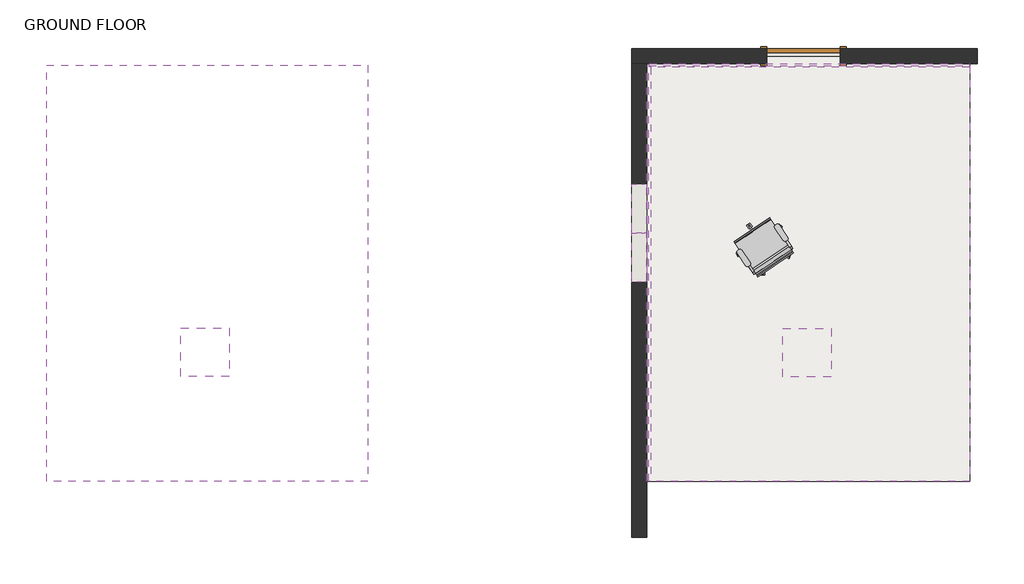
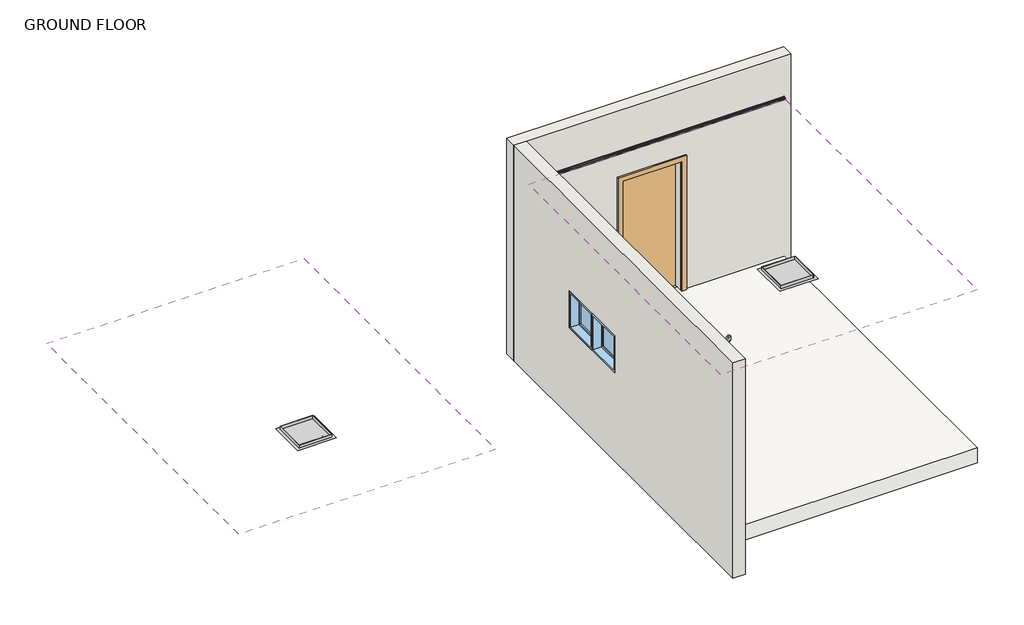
# One storey, incomplete: 4 proxies, 2 coverings, 2 walls, 2 windows, 1 door, 1 furniture element, 1 slab.
"""IFC4 building model written with IfcOpenShell, lengths in millimetres."""

from ifc_helpers import new_model, si_unit, point, frame, frame_2d, origin, place, context, project, spatial, polyline, circle_curve, trimmed, segment, composite_curve, outline, extrude, faceted_brep, transform, mapped, element, save
from components import m_single_flush_0915_x_2134mm_f5238887, chair_task_arms_chair_task_arms_3b363349, m_fixed_0610_x_0610mm_09852ef8

model = new_model("IFC4")

# Units and contexts
model_context = context("Model", 3, world=origin())
ifc_project = project(units=[si_unit("LENGTHUNIT", "METRE", prefix="MILLI")], contexts=[model_context])

# Site, building, storey
site = spatial("IfcSite", under=ifc_project)
building = spatial("IfcBuilding", under=site)
storey = spatial("IfcBuildingStorey", under=building, Name="GROUND FLOOR", Elevation=0.0)

# Proxies
placement = place(None, origin())
element("IfcBuildingElementProxy", 1, Name="Ceiling_Access_HatchPanel_Parametric : Bottom Hung", ObjectType="Ceiling_Access_HatchPanel_Parametric : Bottom Hung", at=placement, inside=storey, context=model_context, shape_type="SolidModel", body=[
    faceted_brep([(107182.6212716, 2875.9489557, 2650.0), (107182.6212716, 2365.2489557, 2650.0), (107693.3212716, 2365.2489557, 2650.0), (107693.3212716, 2875.9489557, 2650.0), (107188.9712716, 2869.5989557, 2650.0), (107686.9712716, 2869.5989557, 2650.0), (107686.9712716, 2371.5989557, 2650.0), (107188.9712716, 2371.5989557, 2650.0), (107182.6212716, 2875.9489557, 2600.0), (107693.3212716, 2875.9489557, 2600.0), (107693.3212716, 2365.2489557, 2600.0), (107182.6212716, 2365.2489557, 2600.0), (107188.9712716, 2869.5989557, 2600.0), (107188.9712716, 2371.5989557, 2600.0), (107686.9712716, 2371.5989557, 2600.0), (107686.9712716, 2869.5989557, 2600.0), (107182.6212716, 2875.9489557, 2611.0), (107182.6212716, 2365.2489557, 2611.0), (107693.3212716, 2365.2489557, 2611.0), (107693.3212716, 2875.9489557, 2611.0)], [[[0, 1, 2, 3], [4, 5, 6, 7]], [[8, 9, 10, 11], [12, 13, 14, 15]], [[5, 4, 12, 15]], [[6, 5, 15, 14]], [[7, 6, 14, 13]], [[4, 7, 13, 12]], [[1, 0, 16, 8, 11, 17]], [[2, 1, 17, 11, 10, 18]], [[3, 2, 18, 10, 9, 19]], [[0, 3, 19, 9, 8, 16]]]),
    extrude(outline(polyline([(107188.9712716, 2869.5989557), (107686.9712716, 2869.5989557), (107686.9712716, 2371.5989557), (107188.9712716, 2371.5989557), (107188.9712716, 2869.5989557)])), frame((0.0, 0.0, 2593.65), z_axis=(0.0, 0.0, 1.0), x_axis=(1.0, 0.0, 0.0)), (0.0, 0.0, 1.0), 6.35),
    faceted_brep([(107188.9712716, 2869.5989557, 2600.0), (107188.9712716, 2869.5989557, 2590.475), (107686.9712716, 2869.5989557, 2590.475), (107686.9712716, 2869.5989557, 2600.0), (107686.9712716, 2371.5989557, 2590.475), (107686.9712716, 2371.5989557, 2600.0), (107188.9712716, 2371.5989557, 2590.475), (107188.9712716, 2371.5989557, 2600.0), (107725.0712716, 2907.6989557, 2590.475), (107725.0712716, 2333.4989557, 2590.475), (107150.8712716, 2333.4989557, 2590.475), (107150.8712716, 2907.6989557, 2590.475), (107138.1712716, 2920.3989557, 2600.0), (107138.1712716, 2320.7989557, 2600.0), (107737.7712716, 2320.7989557, 2600.0), (107737.7712716, 2920.3989557, 2600.0)], [[[0, 1, 2, 3]], [[3, 2, 4, 5]], [[5, 4, 6, 7]], [[8, 9, 10, 11], [1, 6, 4, 2]], [[12, 13, 14, 15], [3, 5, 7, 0]], [[7, 6, 1, 0]], [[11, 12, 15, 8]], [[8, 15, 14, 9]], [[9, 14, 13, 10]], [[10, 13, 12, 11]]]),
    extrude(outline(composite_curve([segment(trimmed(circle_curve(frame_2d((107278.9712716, 2437.9489557)), 10.0), [point((107278.9712716, 2427.9489557))], [point((107278.9712716, 2447.9489557))], False, "CARTESIAN"), True, "CONTINUOUS"), segment(trimmed(circle_curve(frame_2d((107278.9712716, 2437.9489557)), 10.0), [point((107278.9712716, 2447.9489557))], [point((107278.9712716, 2427.9489557))], False, "CARTESIAN"), True, "CONTINUOUS")], self_intersect=False)), frame((0.0, 0.0, 2593.65), z_axis=(0.0, 0.0, 1.0), x_axis=(1.0, 0.0, 0.0)), (0.0, 0.0, 1.0), 6.35),
    extrude(outline(composite_curve([segment(trimmed(circle_curve(frame_2d((107596.9712716, 2437.9489557)), 10.0), [point((107596.9712716, 2427.9489557))], [point((107596.9712716, 2447.9489557))], False, "CARTESIAN"), True, "CONTINUOUS"), segment(trimmed(circle_curve(frame_2d((107596.9712716, 2437.9489557)), 10.0), [point((107596.9712716, 2447.9489557))], [point((107596.9712716, 2427.9489557))], False, "CARTESIAN"), True, "CONTINUOUS")], self_intersect=False)), frame((0.0, 0.0, 2593.65), z_axis=(0.0, 0.0, 1.0), x_axis=(1.0, 0.0, 0.0)), (0.0, 0.0, 1.0), 6.35),
])
element("IfcBuildingElementProxy", 2, Name="Ceiling_Access_HatchPanel_Parametric : In Lay", ObjectType="Ceiling_Access_HatchPanel_Parametric : In Lay", at=placement, inside=storey, context=model_context, shape_type="SolidModel", body=[
    faceted_brep([(114682.6212716, 2869.9489557, 2650.0), (114682.6212716, 2359.2489557, 2650.0), (115193.3212716, 2359.2489557, 2650.0), (115193.3212716, 2869.9489557, 2650.0), (114688.9712716, 2863.5989557, 2650.0), (115186.9712716, 2863.5989557, 2650.0), (115186.9712716, 2365.5989557, 2650.0), (114688.9712716, 2365.5989557, 2650.0), (114682.6212716, 2869.9489557, 2600.0), (115193.3212716, 2869.9489557, 2600.0), (115193.3212716, 2359.2489557, 2600.0), (114682.6212716, 2359.2489557, 2600.0), (114688.9712716, 2863.5989557, 2600.0), (114688.9712716, 2365.5989557, 2600.0), (115186.9712716, 2365.5989557, 2600.0), (115186.9712716, 2863.5989557, 2600.0), (114682.6212716, 2869.9489557, 2611.0), (114682.6212716, 2359.2489557, 2611.0), (115193.3212716, 2359.2489557, 2611.0), (115193.3212716, 2869.9489557, 2611.0)], [[[0, 1, 2, 3], [4, 5, 6, 7]], [[8, 9, 10, 11], [12, 13, 14, 15]], [[5, 4, 12, 15]], [[6, 5, 15, 14]], [[7, 6, 14, 13]], [[4, 7, 13, 12]], [[1, 0, 16, 8, 11, 17]], [[2, 1, 17, 11, 10, 18]], [[3, 2, 18, 10, 9, 19]], [[0, 3, 19, 9, 8, 16]]]),
    extrude(outline(polyline([(114688.9712716, 2863.5989557), (115186.9712716, 2863.5989557), (115186.9712716, 2365.5989557), (114688.9712716, 2365.5989557), (114688.9712716, 2863.5989557)])), frame((0.0, 0.0, 2593.65), z_axis=(0.0, 0.0, 1.0), x_axis=(1.0, 0.0, 0.0)), (0.0, 0.0, 1.0), 6.35),
    faceted_brep([(114688.9712716, 2863.5989557, 2600.0), (114688.9712716, 2863.5989557, 2590.475), (115186.9712716, 2863.5989557, 2590.475), (115186.9712716, 2863.5989557, 2600.0), (115186.9712716, 2365.5989557, 2590.475), (115186.9712716, 2365.5989557, 2600.0), (114688.9712716, 2365.5989557, 2590.475), (114688.9712716, 2365.5989557, 2600.0), (115225.0712716, 2901.6989557, 2590.475), (115225.0712716, 2327.4989557, 2590.475), (114650.8712716, 2327.4989557, 2590.475), (114650.8712716, 2901.6989557, 2590.475), (114638.1712716, 2914.3989557, 2600.0), (114638.1712716, 2314.7989557, 2600.0), (115237.7712716, 2314.7989557, 2600.0), (115237.7712716, 2914.3989557, 2600.0)], [[[0, 1, 2, 3]], [[3, 2, 4, 5]], [[5, 4, 6, 7]], [[8, 9, 10, 11], [1, 6, 4, 2]], [[12, 13, 14, 15], [3, 5, 7, 0]], [[7, 6, 1, 0]], [[11, 12, 15, 8]], [[8, 15, 14, 9]], [[9, 14, 13, 10]], [[10, 13, 12, 11]]]),
])
element("IfcBuildingElementProxy", 3, Name="TR02 : Pelican Systems Plaster Trim 25 x 20", ObjectType="TR02 : Pelican Systems Plaster Trim 25 x 20", at=placement, inside=storey, context=model_context, shape_type="Brep", body=[
    faceted_brep([(116960.7345529, 6217.9193804, 2635.0), (116960.7345529, 6216.9193804, 2635.0), (116960.7345529, 6216.9193804, 2620.0), (116960.7345529, 6191.9193804, 2620.0), (116960.7345529, 6191.9193804, 2611.0), (116960.7345529, 6171.9193804, 2611.0), (116960.7345529, 6171.9193804, 2610.0), (116960.7345529, 6191.9193804, 2610.0), (116960.7345529, 6191.9193804, 2599.0), (116960.7345529, 6192.9193804, 2599.0), (116960.7345529, 6192.9193804, 2619.0), (116960.7345529, 6217.9193804, 2619.0), (112972.7345529, 6217.9193804, 2635.0), (112972.7345529, 6217.9193804, 2619.0), (112972.7345529, 6192.9193804, 2619.0), (112972.7345529, 6192.9193804, 2599.0), (112972.7345529, 6191.9193804, 2599.0), (112972.7345529, 6191.9193804, 2610.0), (112972.7345529, 6187.9193804, 2610.0), (112972.7345529, 6187.9193804, 2611.0), (112972.7345529, 6191.9193804, 2611.0), (112972.7345529, 6191.9193804, 2620.0), (112972.7345529, 6216.9193804, 2620.0), (112972.7345529, 6216.9193804, 2635.0), (112988.7345529, 6171.9193804, 2610.0), (112988.7345529, 6187.9193804, 2610.0), (112988.7345529, 6171.9193804, 2611.0), (112988.7345529, 6187.9193804, 2611.0)], [[[0, 1, 2, 3, 4, 5, 6, 7, 8, 9, 10, 11]], [[12, 13, 14, 15, 16, 17, 18, 19, 20, 21, 22, 23]], [[0, 11, 13, 12]], [[11, 10, 14, 13]], [[10, 9, 15, 14]], [[9, 8, 16, 15]], [[4, 3, 21, 20]], [[3, 2, 22, 21]], [[2, 1, 23, 22]], [[1, 0, 12, 23]], [[8, 7, 17, 16]], [[7, 6, 24, 25, 18, 17]], [[6, 5, 26, 24]], [[5, 4, 20, 19, 27, 26]], [[25, 27, 19, 18]], [[27, 25, 24, 26]]]),
])
element("IfcBuildingElementProxy", 4, Name="TR02 : Pelican Systems Plaster Trim 25 x 20", ObjectType="TR02 : Pelican Systems Plaster Trim 25 x 20", at=placement, inside=storey, context=model_context, shape_type="Brep", body=[
    faceted_brep([(112942.7345529, 6187.9193804, 2635.0), (112943.7345529, 6187.9193804, 2635.0), (112943.7345529, 6187.9193804, 2620.0), (112968.7345529, 6187.9193804, 2620.0), (112968.7345529, 6187.9193804, 2611.0), (112972.7345529, 6187.9193804, 2611.0), (112988.7345529, 6187.9193804, 2611.0), (112988.7345529, 6187.9193804, 2610.0), (112972.7345529, 6187.9193804, 2610.0), (112968.7345529, 6187.9193804, 2610.0), (112968.7345529, 6187.9193804, 2599.0), (112967.7345529, 6187.9193804, 2599.0), (112967.7345529, 6187.9193804, 2619.0), (112942.7345529, 6187.9193804, 2619.0), (112942.7345529, 1012.9193804, 2635.0), (112942.7345529, 1012.9193804, 2619.0), (112967.7345529, 1012.9193804, 2619.0), (112967.7345529, 1012.9193804, 2599.0), (112968.7345529, 1012.9193804, 2599.0), (112968.7345529, 1012.9193804, 2610.0), (112988.7345529, 1012.9193804, 2610.0), (112988.7345529, 1012.9193804, 2611.0), (112968.7345529, 1012.9193804, 2611.0), (112968.7345529, 1012.9193804, 2620.0), (112943.7345529, 1012.9193804, 2620.0), (112943.7345529, 1012.9193804, 2635.0), (112988.7345529, 6171.9193804, 2610.0), (112988.7345529, 6171.9193804, 2611.0)], [[[0, 1, 2, 3, 4, 5, 6, 7, 8, 9, 10, 11, 12, 13]], [[14, 15, 16, 17, 18, 19, 20, 21, 22, 23, 24, 25]], [[13, 15, 14, 0]], [[12, 16, 15, 13]], [[11, 17, 16, 12]], [[10, 18, 17, 11]], [[3, 23, 22, 4]], [[2, 24, 23, 3]], [[1, 25, 24, 2]], [[0, 14, 25, 1]], [[9, 19, 18, 10]], [[7, 26, 20, 19, 9, 8]], [[6, 27, 21, 20, 26, 7]], [[4, 22, 21, 27, 6, 5]]]),
])

# Coverings
element("IfcCovering", 5, ObjectType="_C2.3 - 12mm FLUSHPLASTER CEILING (UNDER CONCRETE SOFFIT)", at=placement, inside=storey, context=model_context, shape_type="SweptSolid", body=[
    extrude(outline(polyline([(105463.7345529, 6197.9193804), (109466.7345529, 6197.9193804), (109466.7345529, 1012.9193804), (105463.7345529, 1012.9193804), (105463.7345529, 6197.9193804)]), holes=[polyline([(107182.6212716, 2875.9489557), (107182.6212716, 2365.2489557), (107693.3212716, 2365.2489557), (107693.3212716, 2875.9489557), (107182.6212716, 2875.9489557)])]), frame((0.0, 0.0, 2600.0), z_axis=(0.0, 0.0, 1.0), x_axis=(1.0, 0.0, 0.0)), (0.0, 0.0, 1.0), 11.0),
])
element("IfcCovering", 6, ObjectType="_C2.3 - 12mm FLUSHPLASTER CEILING (UNDER CONCRETE SOFFIT)", at=placement, inside=storey, context=model_context, shape_type="SweptSolid", body=[
    extrude(outline(polyline([(112967.7345529, 6191.9193804), (116966.7345529, 6191.9193804), (116966.7345529, 1012.9193804), (112967.7345529, 1012.9193804), (112967.7345529, 6191.9193804)]), holes=[polyline([(114682.6212716, 2869.9489557), (114682.6212716, 2359.2489557), (115193.3212716, 2359.2489557), (115193.3212716, 2869.9489557), (114682.6212716, 2869.9489557)])]), frame((0.0, 0.0, 2600.0), z_axis=(0.0, 0.0, 1.0), x_axis=(1.0, 0.0, 0.0)), (0.0, 0.0, 1.0), 11.0),
])

# Door
m_single_flush_0915_x_2134mm_shape = m_single_flush_0915_x_2134mm_f5238887(model_context)
element("IfcDoor", 7, ObjectType="M_Single-Flush : 0915 x 2134mm", at=placement, inside=storey, context=model_context, shape_type="MappedRepresentation", body=[
    mapped(m_single_flush_0915_x_2134mm_shape, transform((114894.7345529, 6312.9193804, 0.0), x_axis=(1.0, 0.0, 0.0), y_axis=(0.0, 1.0, 0.0), z_axis=(0.0, 0.0, 1.0))),
])

# Furniture
chair_task_arms_chair_task_arms_shape = chair_task_arms_chair_task_arms_3b363349(model_context)
element("IfcFurniture", 8, ObjectType="Chair-Task Arms : Chair-Task Arms", at=placement, inside=storey, context=model_context, shape_type="MappedRepresentation", body=[
    mapped(chair_task_arms_chair_task_arms_shape, transform((114292.677586, 3836.7323612, 0.0), x_axis=(0.8290375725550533, 0.5591929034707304, 0.0), y_axis=(-0.5591929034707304, 0.8290375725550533, 0.0), z_axis=(0.0, 0.0, 1.0))),
])

# Slab
element("IfcSlab", 9, ObjectType="Generic Floor - 250mm", at=placement, inside=storey, context=model_context, shape_type="Brep", body=[
    faceted_brep([(112866.7345529, 6312.9193804, -250.0), (116966.7345529, 6312.9193804, -250.0), (116966.7345529, 6217.9193804, -250.0), (116966.7345529, 1012.9193804, -250.0), (112866.7345529, 1012.9193804, -250.0), (112866.7345529, 6217.9193804, -250.0), (112866.7345529, 6312.9193804, 0.0), (112866.7345529, 6217.9193804, 0.0), (112866.7345529, 1012.9193804, 0.0), (116966.7345529, 1012.9193804, 0.0), (116966.7345529, 6217.9193804, 0.0), (116966.7345529, 6312.9193804, 0.0), (115352.2345529, 6312.9193804, 0.0), (114437.2345529, 6312.9193804, 0.0)], [[[0, 1, 2, 3, 4, 5]], [[6, 7, 8, 9, 10, 11, 12, 13]], [[1, 0, 6, 13, 12, 11]], [[3, 2, 1, 11, 10, 9]], [[4, 3, 9, 8]], [[0, 5, 4, 8, 7, 6]]]),
])

# Walls
element("IfcWall", 10, ObjectType="190mm MAXI BLOCK- plastered", at=placement, inside=storey, context=model_context, shape_type="Brep", body=[
    faceted_brep([(117061.7345529, 6217.9193804, -250.0), (117061.7345529, 6217.9193804, 3300.0), (112942.7345529, 6217.9193804, 3300.0), (112752.7345529, 6217.9193804, 3300.0), (112752.7345529, 6217.9193804, -250.0), (112866.7345529, 6217.9193804, -250.0), (112866.7345529, 6217.9193804, 0.0), (114437.2345529, 6217.9193804, 0.0), (114437.2345529, 6217.9193804, 2134.0), (115352.2345529, 6217.9193804, 2134.0), (115352.2345529, 6217.9193804, 0.0), (116966.7345529, 6217.9193804, 0.0), (116966.7345529, 6217.9193804, -250.0), (117061.7345529, 6407.9193804, -250.0), (112752.7345529, 6407.9193804, -250.0), (112752.7345529, 6407.9193804, 3300.0), (117061.7345529, 6407.9193804, 3300.0), (114437.2345529, 6407.9193804, 0.0), (115352.2345529, 6407.9193804, 0.0), (115352.2345529, 6407.9193804, 2134.0), (114437.2345529, 6407.9193804, 2134.0), (116966.7345529, 6312.9193804, -250.0), (112866.7345529, 6312.9193804, -250.0), (114437.2345529, 6312.9193804, 0.0), (115352.2345529, 6312.9193804, 0.0), (112866.7345529, 6312.9193804, 0.0), (116966.7345529, 6312.9193804, 0.0)], [[[0, 1, 2, 3, 4, 5, 6, 7, 8, 9, 10, 11, 12]], [[13, 14, 15, 16], [17, 18, 19, 20]], [[14, 13, 0, 12, 21, 22, 5, 4]], [[1, 0, 13, 16]], [[3, 2, 1, 16, 15]], [[18, 17, 23, 24]], [[19, 18, 24, 10, 9]], [[20, 19, 9, 8]], [[17, 20, 8, 7, 23]], [[25, 23, 7, 6]], [[24, 26, 11, 10]], [[25, 22, 21, 26, 24, 23]], [[22, 25, 6, 5]], [[26, 21, 12, 11]], [[4, 3, 15, 14]]]),
])
element("IfcWall", 11, ObjectType="190mm MAXI BLOCK- plastered", at=placement, inside=storey, context=model_context, shape_type="Brep", body=[
    faceted_brep([(112942.7345529, 312.9193804, -250.0), (112942.7345529, 6217.9193804, -250.0), (112942.7345529, 6217.9193804, 3300.0), (112942.7345529, 312.9193804, 3300.0), (112942.7345529, 3497.9193804, 1810.0), (112942.7345529, 4717.9193804, 1810.0), (112942.7345529, 4717.9193804, 1200.0), (112942.7345529, 3497.9193804, 1200.0), (112752.7345529, 6217.9193804, -250.0), (112752.7345529, 312.9193804, -250.0), (112752.7345529, 312.9193804, 3300.0), (112752.7345529, 6217.9193804, 3300.0), (112752.7345529, 3497.9193804, 1200.0), (112752.7345529, 4717.9193804, 1200.0), (112752.7345529, 4717.9193804, 1810.0), (112752.7345529, 3497.9193804, 1810.0), (112866.7345529, 6217.9193804, -250.0)], [[[0, 1, 2, 3], [4, 5, 6, 7]], [[8, 9, 10, 11], [12, 13, 14, 15]], [[1, 0, 9, 8, 16]], [[3, 2, 11, 10]], [[0, 3, 10, 9]], [[2, 1, 16, 8, 11]], [[14, 13, 6, 5]], [[14, 5, 4, 15]], [[12, 7, 6, 13]], [[15, 4, 7, 12]]]),
])

# Windows
m_fixed_0610_x_0610mm_shape = m_fixed_0610_x_0610mm_09852ef8(model_context)
element("IfcWindow", 12, ObjectType="M_Fixed : 0610 x 0610mm", at=placement, inside=storey, context=model_context, shape_type="MappedRepresentation", body=[
    mapped(m_fixed_0610_x_0610mm_shape, transform((112834.7345529, 4412.9193804, 285.0), x_axis=(0.0, -1.0, 0.0), y_axis=(1.0, 0.0, 0.0), z_axis=(0.0, 0.0, 1.0))),
])
element("IfcWindow", 13, ObjectType="M_Fixed : 0610 x 0610mm", at=placement, inside=storey, context=model_context, shape_type="MappedRepresentation", body=[
    mapped(m_fixed_0610_x_0610mm_shape, transform((112834.7345529, 3802.9193804, 285.0), x_axis=(0.0, -1.0, 0.0), y_axis=(1.0, 0.0, 0.0), z_axis=(0.0, 0.0, 1.0))),
])

save(model, "model.ifc")
